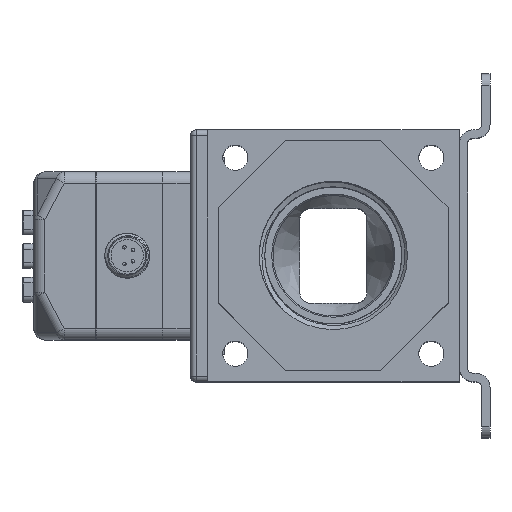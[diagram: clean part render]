
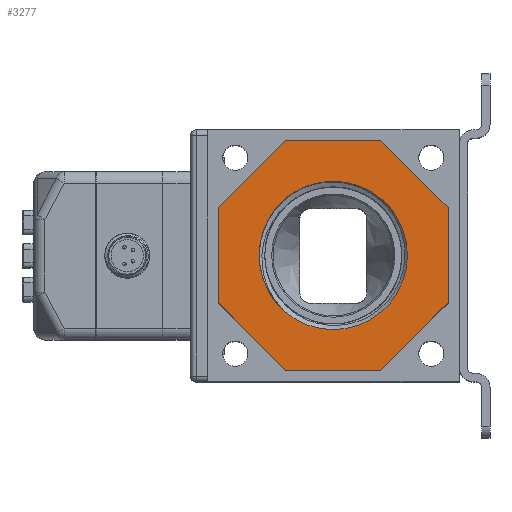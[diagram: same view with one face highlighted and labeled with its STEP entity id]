
A CAD part, top view. The second image highlights one B-rep face of the part: STEP entity #3277.
In plain terms, the highlighted planar face has unit normal (0, 0, 1).
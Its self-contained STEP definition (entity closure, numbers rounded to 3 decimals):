
#1810=FACE_BOUND('',#5945,.T.);
#1811=FACE_BOUND('',#5946,.T.);
#2320=CIRCLE('',#20454,13.25);
#3277=ADVANCED_FACE('',(#1810,#1811),#3979,.T.);
#3979=PLANE('',#20455);
#5945=EDGE_LOOP('',(#10872));
#5946=EDGE_LOOP('',(#10873,#10874,#10875,#10876,#10877,#10878,#10879,#10880));
#10872=ORIENTED_EDGE('',*,*,#15266,.T.);
#10873=ORIENTED_EDGE('',*,*,#15267,.F.);
#10874=ORIENTED_EDGE('',*,*,#15268,.T.);
#10875=ORIENTED_EDGE('',*,*,#15269,.F.);
#10876=ORIENTED_EDGE('',*,*,#15270,.T.);
#10877=ORIENTED_EDGE('',*,*,#15271,.F.);
#10878=ORIENTED_EDGE('',*,*,#15272,.T.);
#10879=ORIENTED_EDGE('',*,*,#15273,.F.);
#10880=ORIENTED_EDGE('',*,*,#15274,.T.);
#12757=VERTEX_POINT('',#33082);
#12758=VERTEX_POINT('',#33084);
#12759=VERTEX_POINT('',#33085);
#12760=VERTEX_POINT('',#33087);
#12761=VERTEX_POINT('',#33089);
#12762=VERTEX_POINT('',#33091);
#12763=VERTEX_POINT('',#33093);
#12764=VERTEX_POINT('',#33095);
#12765=VERTEX_POINT('',#33097);
#15266=EDGE_CURVE('',#12757,#12757,#2320,.T.);
#15267=EDGE_CURVE('',#12758,#12759,#17157,.T.);
#15268=EDGE_CURVE('',#12758,#12760,#17158,.T.);
#15269=EDGE_CURVE('',#12761,#12760,#17159,.T.);
#15270=EDGE_CURVE('',#12761,#12762,#17160,.T.);
#15271=EDGE_CURVE('',#12763,#12762,#17161,.T.);
#15272=EDGE_CURVE('',#12763,#12764,#17162,.T.);
#15273=EDGE_CURVE('',#12765,#12764,#17163,.T.);
#15274=EDGE_CURVE('',#12765,#12759,#17164,.T.);
#17157=LINE('',#33083,#19013);
#17158=LINE('',#33086,#19014);
#17159=LINE('',#33088,#19015);
#17160=LINE('',#33090,#19016);
#17161=LINE('',#33092,#19017);
#17162=LINE('',#33094,#19018);
#17163=LINE('',#33096,#19019);
#17164=LINE('',#33098,#19020);
#19013=VECTOR('',#25047,1.);
#19014=VECTOR('',#25048,1.);
#19015=VECTOR('',#25049,1.);
#19016=VECTOR('',#25050,1.);
#19017=VECTOR('',#25051,1.);
#19018=VECTOR('',#25052,1.);
#19019=VECTOR('',#25053,1.);
#19020=VECTOR('',#25054,1.);
#20454=AXIS2_PLACEMENT_3D('',#33081,#25045,#25046);
#20455=AXIS2_PLACEMENT_3D('',#33099,#25055,#25056);
#25045=DIRECTION('',(0.,0.,-1.));
#25046=DIRECTION('',(1.,0.,0.));
#25047=DIRECTION('',(-0.707,0.707,0.));
#25048=DIRECTION('',(1.,0.,0.));
#25049=DIRECTION('',(-0.707,-0.707,0.));
#25050=DIRECTION('',(0.,1.,0.));
#25051=DIRECTION('',(0.707,-0.707,0.));
#25052=DIRECTION('',(-1.,0.,0.));
#25053=DIRECTION('',(0.707,0.707,0.));
#25054=DIRECTION('',(0.,-1.,0.));
#25055=DIRECTION('',(0.,0.,1.));
#25056=DIRECTION('',(1.,0.,0.));
#33081=CARTESIAN_POINT('',(22.,22.,22.));
#33082=CARTESIAN_POINT('',(35.25,22.,22.));
#33083=CARTESIAN_POINT('',(1.5,13.509,22.));
#33084=CARTESIAN_POINT('',(13.509,1.5,22.));
#33085=CARTESIAN_POINT('',(1.5,13.509,22.));
#33086=CARTESIAN_POINT('',(44.5,1.5,22.));
#33087=CARTESIAN_POINT('',(30.491,1.5,22.));
#33088=CARTESIAN_POINT('',(30.491,1.5,22.));
#33089=CARTESIAN_POINT('',(42.5,13.509,22.));
#33090=CARTESIAN_POINT('',(42.5,44.5,22.));
#33091=CARTESIAN_POINT('',(42.5,30.491,22.));
#33092=CARTESIAN_POINT('',(42.5,30.491,22.));
#33093=CARTESIAN_POINT('',(30.491,42.5,22.));
#33094=CARTESIAN_POINT('',(-0.5,42.5,22.));
#33095=CARTESIAN_POINT('',(13.509,42.5,22.));
#33096=CARTESIAN_POINT('',(13.509,42.5,22.));
#33097=CARTESIAN_POINT('',(1.5,30.491,22.));
#33098=CARTESIAN_POINT('',(1.5,-0.5,22.));
#33099=CARTESIAN_POINT('',(38.,6.,22.));
